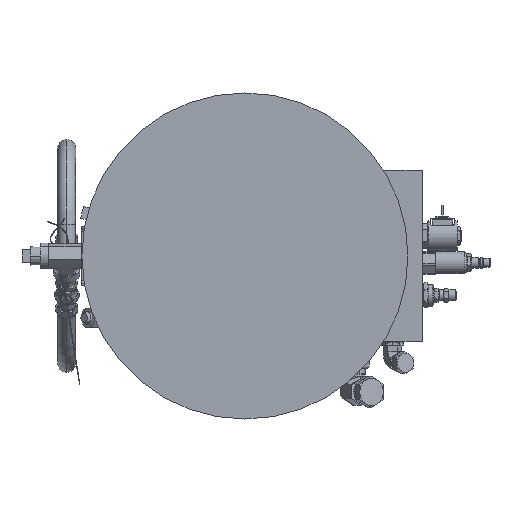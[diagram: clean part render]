
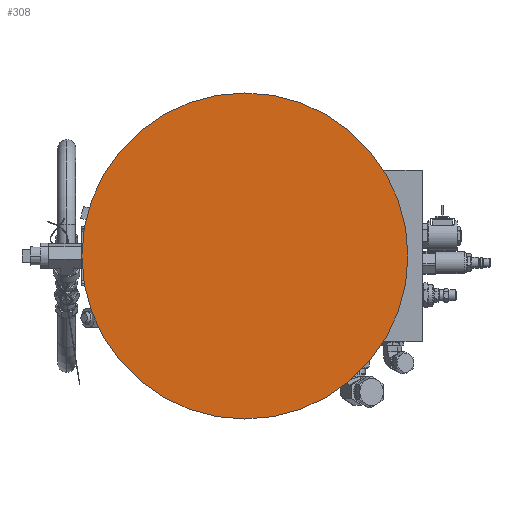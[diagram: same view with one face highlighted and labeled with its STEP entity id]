
A CAD part, front view. The second image highlights one B-rep face of the part: STEP entity #308.
In plain terms, the highlighted planar face has unit normal (0, -1, 0).
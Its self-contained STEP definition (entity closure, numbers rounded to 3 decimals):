
#261=CARTESIAN_POINT('',(0.,-0.177,0.));
#262=DIRECTION('',(0.,-1.,0.));
#263=DIRECTION('',(-1.,0.,0.));
#264=AXIS2_PLACEMENT_3D('',#261,#262,#263);
#266=CARTESIAN_POINT('',(0.,-0.177,0.));
#267=DIRECTION('',(0.,1.,0.));
#268=DIRECTION('',(-1.,0.,0.));
#269=AXIS2_PLACEMENT_3D('',#266,#267,#268);
#290=CARTESIAN_POINT('',(-7.5,-0.177,0.));
#292=VERTEX_POINT('',#290);
#294=CARTESIAN_POINT('',(7.5,-0.177,0.));
#296=VERTEX_POINT('',#294);
#297=CARTESIAN_POINT('',(0.,-0.177,0.));
#298=DIRECTION('',(0.,1.,0.));
#299=DIRECTION('',(1.,0.,0.));
#300=AXIS2_PLACEMENT_3D('',#297,#298,#299);
#301=PLANE('',#300);
#303=ORIENTED_EDGE('',*,*,#302,.F.);
#305=ORIENTED_EDGE('',*,*,#304,.T.);
#306=EDGE_LOOP('',(#303,#305));
#307=FACE_OUTER_BOUND('',#306,.F.);
#308=ADVANCED_FACE('',(#307),#301,.F.);
#265=CIRCLE('',#264,7.5);
#270=CIRCLE('',#269,7.5);
#302=EDGE_CURVE('',#292,#296,#265,.T.);
#304=EDGE_CURVE('',#292,#296,#270,.T.);
